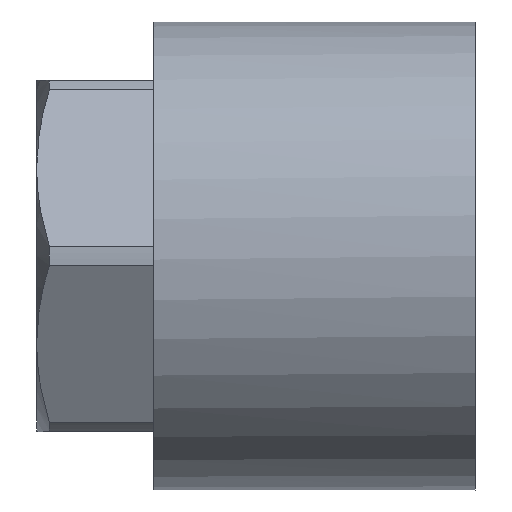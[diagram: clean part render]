
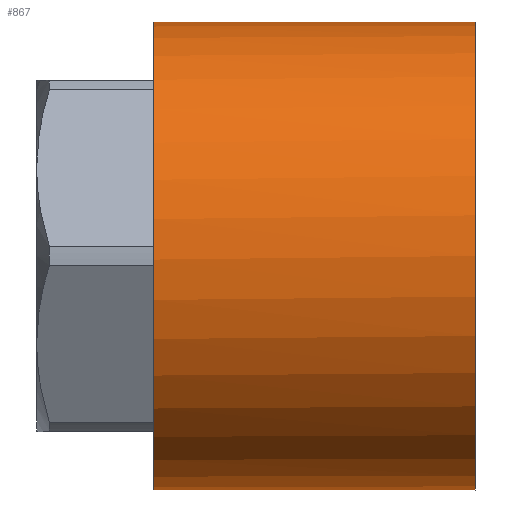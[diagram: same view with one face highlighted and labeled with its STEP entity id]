
A CAD part, front view. The second image highlights one B-rep face of the part: STEP entity #867.
In plain terms, the highlighted cylindrical face has radius 16 mm (diameter 32 mm), a full revolution.
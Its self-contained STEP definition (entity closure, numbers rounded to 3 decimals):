
#822=CARTESIAN_POINT('',(8.,5.101,15.165));
#823=VERTEX_POINT('',#822);
#824=CARTESIAN_POINT('',(8.0,0.,0.0));
#825=DIRECTION('',(1.0,0.0,0.0));
#826=DIRECTION('',(0.0,1.0,0.0));
#827=AXIS2_PLACEMENT_3D('',#824,#825,#826);
#828=CIRCLE('',#827,16.);
#829=EDGE_CURVE('',#823,#823,#828,.T.);
#848=CARTESIAN_POINT('',(19.0,0.,0.0));
#849=DIRECTION('',(1.0,0.,0.0));
#850=DIRECTION('',(0.0,1.0,0.0));
#851=AXIS2_PLACEMENT_3D('',#848,#849,#850);
#852=CYLINDRICAL_SURFACE('',#851,16.);
#853=CARTESIAN_POINT('',(30.0,16.,0.0));
#854=VERTEX_POINT('',#853);
#855=CARTESIAN_POINT('',(30.,0.,0.0));
#856=DIRECTION('',(1.0,0.0,0.0));
#857=DIRECTION('',(0.0,1.0,0.0));
#858=AXIS2_PLACEMENT_3D('',#855,#856,#857);
#859=CIRCLE('',#858,16.0);
#860=EDGE_CURVE('',#854,#854,#859,.T.);
#861=ORIENTED_EDGE('',*,*,#860,.F.);
#862=EDGE_LOOP('',(#861));
#863=FACE_OUTER_BOUND('',#862,.T.);
#864=ORIENTED_EDGE('',*,*,#829,.T.);
#865=EDGE_LOOP('',(#864));
#866=FACE_BOUND('',#865,.T.);
#867=ADVANCED_FACE('',(#863,#866),#852,.T.);
